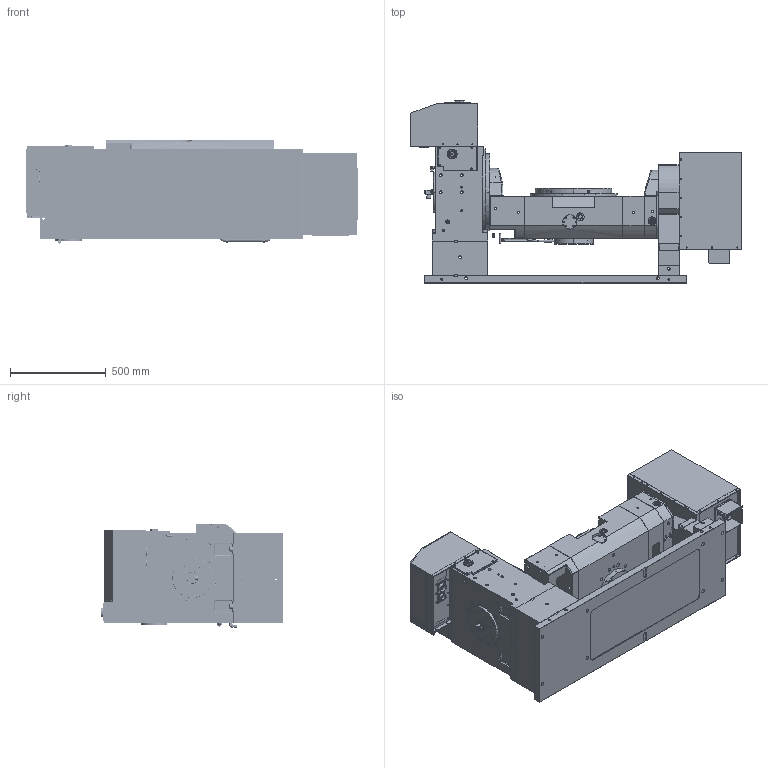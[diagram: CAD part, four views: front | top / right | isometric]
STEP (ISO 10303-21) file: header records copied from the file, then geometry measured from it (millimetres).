
FILE_DESCRIPTION (( 'STEP AP203' ), '1' );
FILE_NAME ('15161558 MDAT403US-ECT-06.STEP', '2020-12-05T05:32:00', ( '' ), ( '' ), 'SwSTEP 2.0', 'SolidWorks 2019', '' );
FILE_SCHEMA (( 'CONFIG_CONTROL_DESIGN' ));
Products named in the file (1): 15161558 MDAT403US-ECT-06
Bounding box: 1735 x 954 x 541.82 mm (x, y, z)
Surface area: 8075153 mm2 (no closed solid volume)
Topology: 0 solids, 233 shells, 2035 faces, 7628 edges, 5742 vertices
Faces by surface type: cylinder 975, plane 782, cone 177, torus 80, bspline 16, sphere 5
Entity records: 87891 total; most frequent: CARTESIAN_POINT 21148, DIRECTION 14918, ORIENTED_EDGE 11259, EDGE_CURVE 7609, VERTEX_POINT 5740, AXIS2_PLACEMENT_3D 5691, CIRCLE 3671, VECTOR 3536
